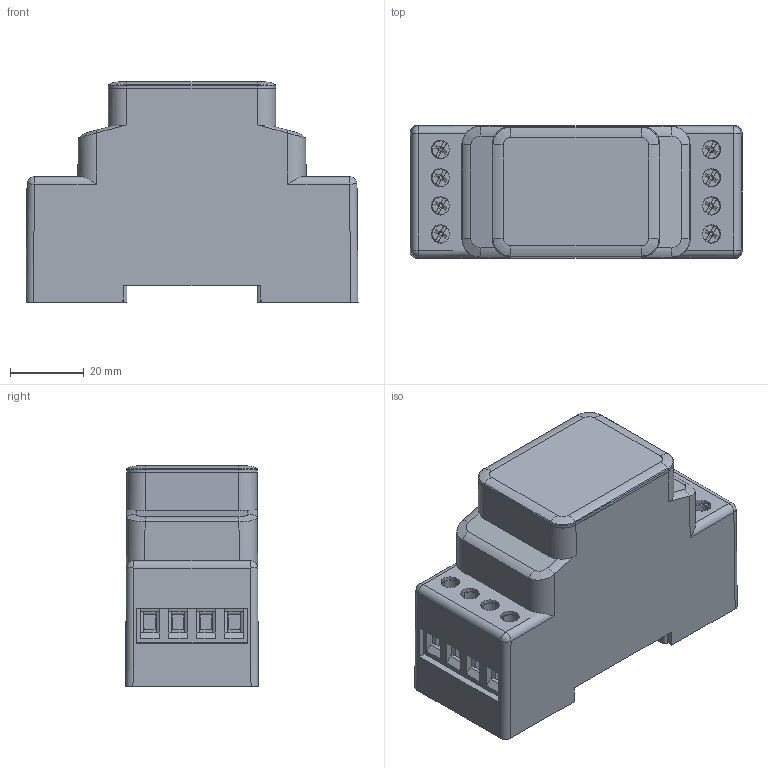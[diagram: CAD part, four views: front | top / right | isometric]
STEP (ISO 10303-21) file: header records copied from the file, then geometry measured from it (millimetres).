
FILE_DESCRIPTION (( 'STEP AP203' ), '1' );
FILE_NAME ('GKRC-02FA.STEP', '2023-03-24T07:26:44', ( '' ), ( '' ), 'SwSTEP 2.0', 'SolidWorks 2021', '' );
FILE_SCHEMA (( 'CONFIG_CONTROL_DESIGN' ));
Length unit declared in the file: millimetre
Products named in the file (1): GKRC-02FA
Bounding box: 90 x 36 x 59.7 mm (x, y, z)
Volume: 142693.2 mm3; surface area: 31602.9 mm2
Topology: 1 solids, 24 shells, 1319 faces, 3625 edges, 2374 vertices
Faces by surface type: plane 1101, cylinder 154, cone 32, bspline 28, sphere 4
Entity records: 44825 total; most frequent: CARTESIAN_POINT 12017, ORIENTED_EDGE 7214, DIRECTION 5956, EDGE_CURVE 3607, LINE 3098, VECTOR 3098, VERTEX_POINT 2373, AXIS2_PLACEMENT_3D 1429
